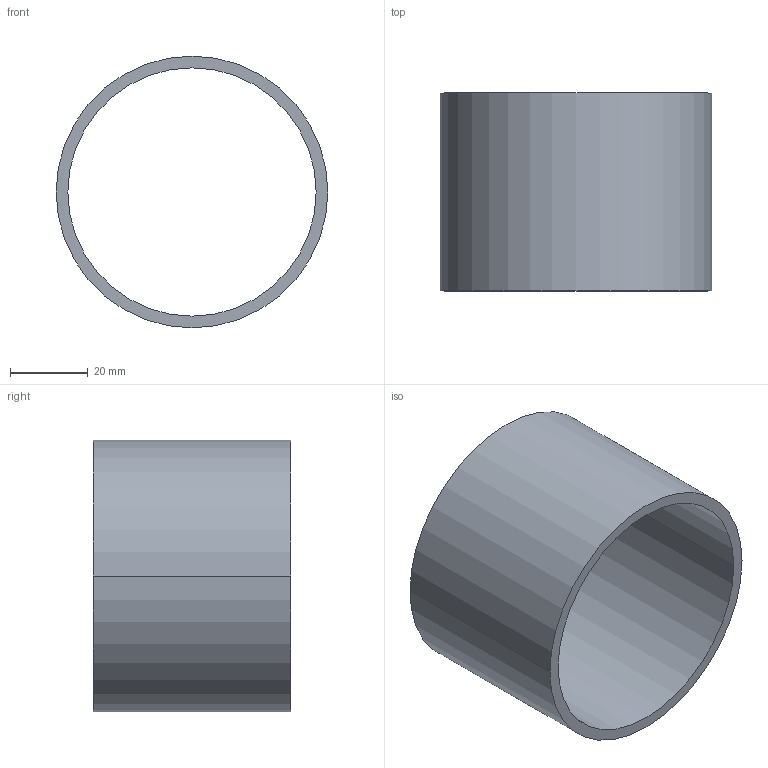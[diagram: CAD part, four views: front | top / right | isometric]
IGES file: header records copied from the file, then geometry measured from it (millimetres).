
Start section: IGES file generated by C3D Converter 1.6 translator by C3D Labs., translator version IGESOUT-5.1.
Global section: file name: HC:\Users\沓膼\OneDrive\Desktop\欙鵳醆TL70\鐕謽僗\砑僳鍙.igs; preprocessor: 1.0; author: 沓膼,7; organization: Hunknown; date: -17760826:042008; units: millimetre
Bounding box: 70 x 51 x 70 mm (x, y, z)
Volume: 32204.5 mm3; surface area: 22732.6 mm2
Topology: 1 solids, 1 shells, 6 faces, 12 edges, 8 vertices
Faces by surface type: revolution 4, bspline 2
